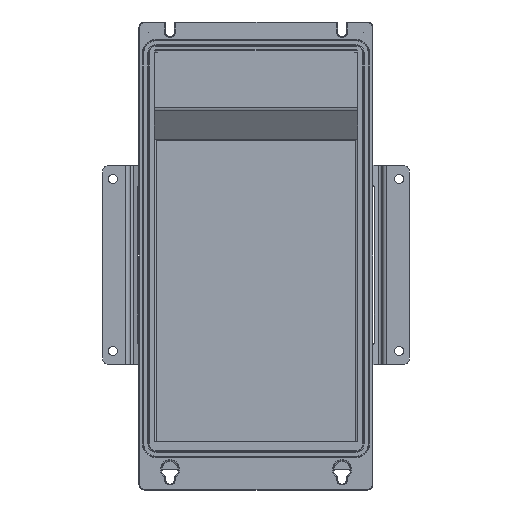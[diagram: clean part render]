
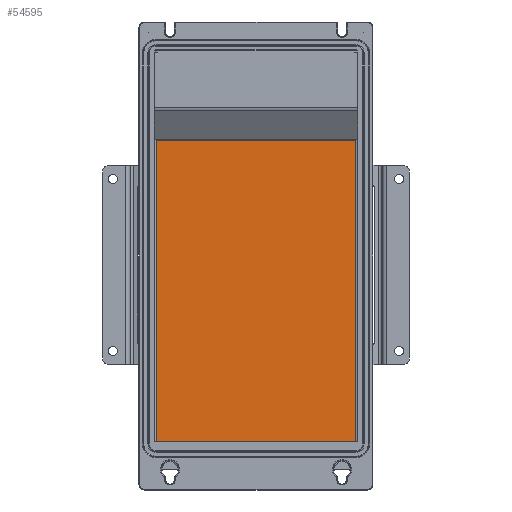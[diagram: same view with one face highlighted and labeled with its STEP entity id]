
A CAD part, front view. The second image highlights one B-rep face of the part: STEP entity #54595.
In plain terms, the highlighted planar face has unit normal (0, -1, 0).
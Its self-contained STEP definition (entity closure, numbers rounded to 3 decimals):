
#1674 = CARTESIAN_POINT ( 'NONE',  ( 72.616, -73.5, -6.261 ) ) ;
#1985 = FACE_OUTER_BOUND ( 'NONE', #38227, .T. ) ;
#5610 = EDGE_CURVE ( 'NONE', #51949, #17497, #19092, .T. ) ;
#5848 = EDGE_CURVE ( 'NONE', #41407, #17497, #23883, .T. ) ;
#7157 = VERTEX_POINT ( 'NONE', #32322 ) ;
#7507 = VECTOR ( 'NONE', #47528, 1000. ) ;
#9842 = DIRECTION ( 'NONE',  ( 0., 0., 1. ) ) ;
#16972 = DIRECTION ( 'NONE',  ( 1., 0., 0. ) ) ;
#17426 = VECTOR ( 'NONE', #9842, 1000. ) ;
#17497 = VERTEX_POINT ( 'NONE', #64580 ) ;
#19092 = LINE ( 'NONE', #39471, #52965 ) ;
#22647 = ORIENTED_EDGE ( 'NONE', *, *, #46811, .F. ) ;
#23883 = LINE ( 'NONE', #63924, #17426 ) ;
#24617 = ORIENTED_EDGE ( 'NONE', *, *, #5848, .F. ) ;
#27501 = CARTESIAN_POINT ( 'NONE',  ( 72.616, -73.5, -1.098 ) ) ;
#32249 = CARTESIAN_POINT ( 'NONE',  ( -72., -73.5, -225. ) ) ;
#32322 = CARTESIAN_POINT ( 'NONE',  ( 72.616, -73.5, -225. ) ) ;
#33253 = AXIS2_PLACEMENT_3D ( 'NONE', #62862, #61915, #16972 ) ;
#34513 = ORIENTED_EDGE ( 'NONE', *, *, #5610, .T. ) ;
#38227 = EDGE_LOOP ( 'NONE', ( #34513, #24617, #22647, #39339 ) ) ;
#39148 = DIRECTION ( 'NONE',  ( -1., 0., 0. ) ) ;
#39339 = ORIENTED_EDGE ( 'NONE', *, *, #50016, .F. ) ;
#39471 = CARTESIAN_POINT ( 'NONE',  ( 0., -73.5, -6.261 ) ) ;
#41407 = VERTEX_POINT ( 'NONE', #50823 ) ;
#41786 = LINE ( 'NONE', #32249, #62677 ) ;
#46811 = EDGE_CURVE ( 'NONE', #7157, #41407, #41786, .T. ) ;
#47528 = DIRECTION ( 'NONE',  ( 0., 0., -1. ) ) ;
#50016 = EDGE_CURVE ( 'NONE', #51949, #7157, #57368, .T. ) ;
#50823 = CARTESIAN_POINT ( 'NONE',  ( -72.616, -73.5, -225. ) ) ;
#51949 = VERTEX_POINT ( 'NONE', #1674 ) ;
#52561 = DIRECTION ( 'NONE',  ( -1., 0., 0. ) ) ;
#52965 = VECTOR ( 'NONE', #39148, 1000. ) ;
#54595 = ADVANCED_FACE ( 'NONE', ( #1985 ), #57004, .F. ) ;
#57004 = PLANE ( 'NONE',  #33253 ) ;
#57368 = LINE ( 'NONE', #27501, #7507 ) ;
#61915 = DIRECTION ( 'NONE',  ( 0., 1., 0. ) ) ;
#62677 = VECTOR ( 'NONE', #52561, 1000. ) ;
#62862 = CARTESIAN_POINT ( 'NONE',  ( 0., -73.5, -83.5 ) ) ;
#63924 = CARTESIAN_POINT ( 'NONE',  ( -72.616, -73.5, -1.098 ) ) ;
#64580 = CARTESIAN_POINT ( 'NONE',  ( -72.616, -73.5, -6.261 ) ) ;
